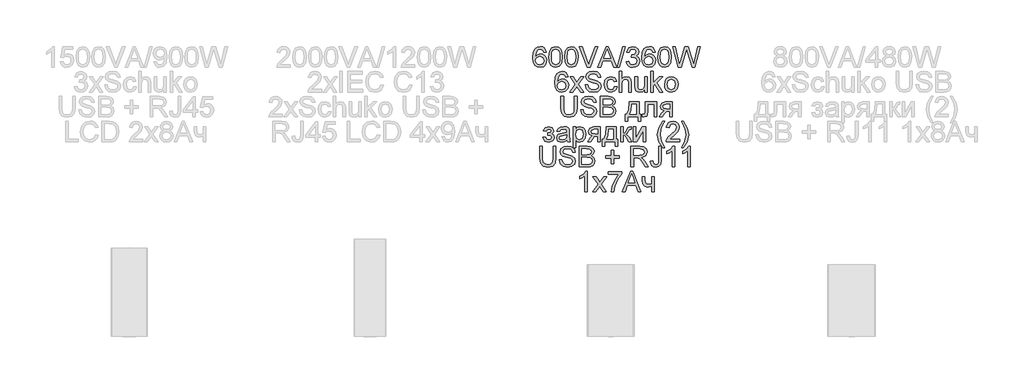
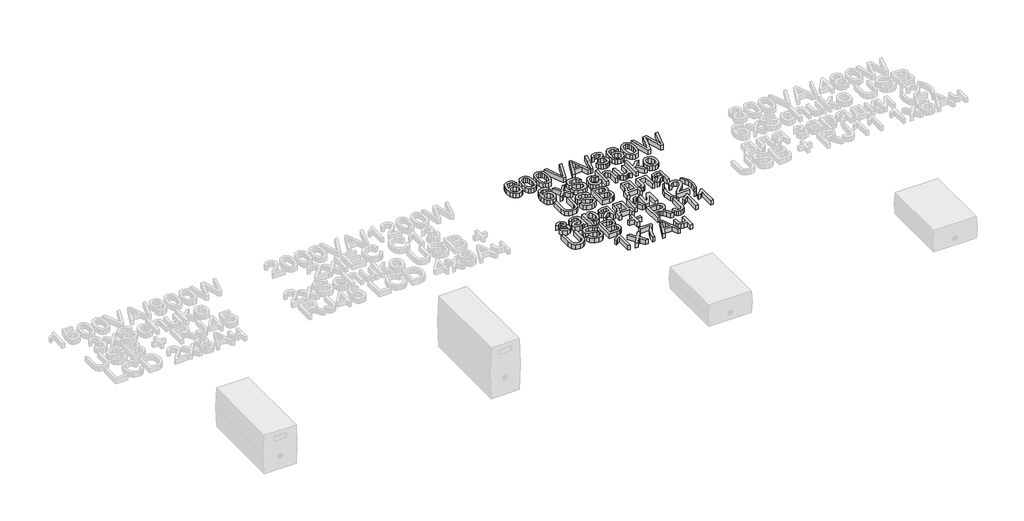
# One storey, part 50 of 74: 1 proxy.
"""IFC4 building model written with IfcOpenShell, lengths in millimetres."""

from ifc_helpers import new_model, si_unit, origin, origin_with_axes, place, context, project, spatial, polyline, outline, extrude, element, save

model = new_model("IFC4")

# Units and contexts
model_context = context("Model", 3, world=origin())
ifc_project = project(units=[si_unit("LENGTHUNIT", "METRE", prefix="MILLI")], contexts=[model_context])

# Site, building, storey
site = spatial("IfcSite", under=ifc_project)
building = spatial("IfcBuilding", under=site)
storey = spatial("IfcBuildingStorey", under=building, Name="Этаж 01", Elevation=0.0)

# Proxy
placement = place(None, origin())
element("IfcBuildingElementProxy", 1, Name="80 мм Arial", ObjectType="80 мм Arial", at=placement, inside=storey, context=model_context, shape_type="SweptSolid", body=[
    extrude(outline(polyline([(9576.3389235, -10967.6152437), (9566.2932925, -10968.8709476), (9562.4869401, -10960.4930483), (9552.4216887, -10956.3139089), (9543.3570764, -10958.7468351), (9536.499756, -10967.8801188), (9533.6449917, -10985.7837092), (9542.5035901, -10977.7687868), (9553.4811889, -10975.149467), (9562.7616253, -10976.9398261), (9570.5509135, -10982.3109032), (9575.8336989, -10990.5171242), (9577.5946274, -11000.812915), (9574.2787843, -11014.6747086), (9565.1553109, -11024.4848951), (9551.9900405, -11027.8890298), (9540.5930563, -11025.6326869), (9531.5161812, -11018.8636582), (9525.5785658, -11006.914851), (9523.5993607, -10989.1191726), (9525.7968425, -10969.1112972), (9532.3892878, -10955.4309921), (9541.390134, -10948.5589564), (9553.0495407, -10946.2682778), (9561.8639933, -10947.6858498), (9568.9224225, -10951.9385657), (9576.3389235, -10967.6152437)]), holes=[polyline([(9533.6449917, -11000.655952), (9535.9700059, -11009.3575875), (9542.1504234, -11015.6753476), (9551.2052256, -11017.8433988), (9563.0461208, -11013.3503334), (9567.5489964, -11001.1464613), (9563.1049819, -10989.4625292), (9550.7931978, -10985.195098), (9538.6383766, -10989.4625292), (9533.6449917, -11000.655952)])]), origin_with_axes(), (0.0, 0.0, 1.0), 20.0),
    extrude(outline(polyline([(9586.3845545, -10987.0982742), (9589.3374207, -10963.9756645), (9598.1077274, -10950.643621), (9612.7543359, -10946.2682778), (9624.487319, -10948.8581671), (9632.5905331, -10956.323719), (9637.2994227, -10968.2136651), (9639.1241174, -10987.0982742), (9636.2006818, -11010.122782), (9627.4598056, -11023.4842561), (9612.7543359, -11027.8890298), (9602.3162975, -11025.9760435), (9594.3896667, -11020.2370843), (9588.3858326, -11006.6450709), (9586.3845545, -10987.0982742)]), holes=[polyline([(9596.4301855, -10987.0786538), (9597.6074079, -11002.8804118), (9601.1390751, -11012.0259582), (9612.7543359, -11017.8433988), (9624.3695968, -11012.0063378), (9627.901264, -11002.8558863), (9629.0784863, -10987.0786538), (9627.9405047, -10971.6325151), (9624.5265598, -10962.4158449), (9619.27811, -10957.8393929), (9612.6366137, -10956.3139089), (9601.2960381, -10961.6898911), (9597.6466487, -10971.4804572), (9596.4301855, -10987.0786538)])]), origin_with_axes(), (0.0, 0.0, 1.0), 20.0),
    extrude(outline(polyline([(9647.9140445, -10987.0982742), (9650.8669106, -10963.9756645), (9659.6372174, -10950.643621), (9674.2838259, -10946.2682778), (9686.016809, -10948.8581671), (9694.1200231, -10956.323719), (9698.8289126, -10968.2136651), (9700.6536073, -10987.0982742), (9697.7301717, -11010.122782), (9688.9892955, -11023.4842561), (9674.2838259, -11027.8890298), (9663.8457874, -11025.9760435), (9655.9191567, -11020.2370843), (9649.9153225, -11006.6450709), (9647.9140445, -10987.0982742)]), holes=[polyline([(9657.9596755, -10987.0786538), (9659.1368979, -11002.8804118), (9662.668565, -11012.0259582), (9674.2838259, -11017.8433988), (9685.8990868, -11012.0063378), (9689.4307539, -11002.8558863), (9690.6079763, -10987.0786538), (9689.4699947, -10971.6325151), (9686.0560498, -10962.4158449), (9680.8076, -10957.8393929), (9674.1661037, -10956.3139089), (9662.825528, -10961.6898911), (9659.1761386, -10971.4804572), (9657.9596755, -10987.0786538)])]), origin_with_axes(), (0.0, 0.0, 1.0), 20.0),
    extrude(outline(polyline([(9736.9512975, -11026.633326), (9704.9700894, -10946.2682778), (9715.7220538, -10946.2682778), (9737.1278809, -11004.1679988), (9741.4639833, -11017.2155469), (9745.7412247, -11004.1679988), (9767.2059128, -10946.2682778), (9777.9578772, -10946.2682778), (9747.3304749, -11026.633326), (9736.9512975, -11026.633326)])), origin_with_axes(), (0.0, 0.0, 1.0), 20.0),
    extrude(outline(polyline([(9777.9382569, -11026.633326), (9810.0175668, -10946.2682778), (9818.5720495, -10946.2682778), (9850.6513595, -11026.633326), (9840.0367377, -11026.633326), (9830.8347827, -11001.5192484), (9797.7352133, -11001.5192484), (9788.5528787, -11026.633326), (9777.9382569, -11026.633326)]), holes=[polyline([(9801.4238434, -10991.4736174), (9827.1657729, -10991.4736174), (9819.9258553, -10971.7159017), (9814.2948082, -10956.3139089), (9809.291613, -10969.9893089), (9801.4238434, -10991.4736174)])]), origin_with_axes(), (0.0, 0.0, 1.0), 20.0),
    extrude(outline(polyline([(9852.5937764, -11026.633326), (9875.1964462, -10946.2682778), (9884.2610586, -10946.2682778), (9861.6583888, -11026.633326), (9852.5937764, -11026.633326)])), origin_with_axes(), (0.0, 0.0, 1.0), 20.0),
    extrude(outline(polyline([(9889.0091889, -11005.2863601), (9899.0548199, -11004.0306562), (9904.5975753, -11014.6060373), (9914.9669424, -11017.8433988), (9927.1708145, -11013.3895741), (9931.7031207, -11002.3629245), (9927.2100552, -10991.9739369), (9915.7909981, -10987.8634688), (9908.7472842, -10988.9622097), (9909.8656454, -10978.9165786), (9911.474516, -10979.0343009), (9922.8739528, -10976.150106), (9927.936009, -10967.2816974), (9924.2669993, -10959.423738), (9914.8099794, -10956.3139089), (9905.2352374, -10959.4531685), (9900.3105237, -10968.8709476), (9890.2648927, -10967.6152437), (9898.485829, -10951.8600842), (9914.4568127, -10946.2682778), (9926.5723931, -10949.0249403), (9935.0483943, -10956.5591635), (9937.98164, -10966.6930862), (9935.1955471, -10975.9539023), (9926.9549904, -10982.6052088), (9937.9031586, -10989.4723394), (9941.7487517, -11002.5395078), (9939.8259551, -11012.330074), (9934.0575654, -11020.5117696), (9925.3510249, -11026.0447148), (9914.6137757, -11027.8890298), (9904.901691, -11026.3144949), (9896.9946807, -11021.5908901), (9891.4960711, -11014.3656877), (9889.0091889, -11005.2863601)])), origin_with_axes(), (0.0, 0.0, 1.0), 20.0),
    extrude(outline(polyline([(10002.0225378, -10967.6152437), (9991.9769068, -10968.8709476), (9988.1705544, -10960.4930483), (9978.105303, -10956.3139089), (9969.0406906, -10958.7468351), (9962.1833702, -10967.8801188), (9959.328606, -10985.7837092), (9968.1872044, -10977.7687868), (9979.1648031, -10975.149467), (9988.4452396, -10976.9398261), (9996.2345277, -10982.3109032), (10001.5173132, -10990.5171242), (10003.2782416, -11000.812915), (9999.9623986, -11014.6747086), (9990.8389251, -11024.4848951), (9977.6736548, -11027.8890298), (9966.2766706, -11025.6326869), (9957.1997955, -11018.8636582), (9951.2621801, -11006.914851), (9949.2829749, -10989.1191726), (9951.4804567, -10969.1112972), (9958.0729021, -10955.4309921), (9967.0737482, -10948.5589564), (9978.7331549, -10946.2682778), (9987.5476075, -10947.6858498), (9994.6060367, -10951.9385657), (10002.0225378, -10967.6152437)]), holes=[polyline([(9959.328606, -11000.655952), (9961.6536202, -11009.3575875), (9967.8340377, -11015.6753476), (9976.8888399, -11017.8433988), (9988.729735, -11013.3503334), (9993.2326106, -11001.1464613), (9988.7885961, -10989.4625292), (9976.476812, -10985.195098), (9964.3219909, -10989.4625292), (9959.328606, -11000.655952)])]), origin_with_axes(), (0.0, 0.0, 1.0), 20.0),
    extrude(outline(polyline([(10012.0681688, -10987.0982742), (10015.0210349, -10963.9756645), (10023.7913417, -10950.643621), (10038.4379502, -10946.2682778), (10050.1709333, -10948.8581671), (10058.2741474, -10956.323719), (10062.9830369, -10968.2136651), (10064.8077316, -10987.0982742), (10061.884296, -11010.122782), (10053.1434198, -11023.4842561), (10038.4379502, -11027.8890298), (10027.9999117, -11025.9760435), (10020.073281, -11020.2370843), (10014.0694468, -11006.6450709), (10012.0681688, -10987.0982742)]), holes=[polyline([(10022.1137998, -10987.0786538), (10023.2910222, -11002.8804118), (10026.8226893, -11012.0259582), (10038.4379502, -11017.8433988), (10050.0532111, -11012.0063378), (10053.5848782, -11002.8558863), (10054.7621006, -10987.0786538), (10053.624119, -10971.6325151), (10050.210174, -10962.4158449), (10044.9617242, -10957.8393929), (10038.320228, -10956.3139089), (10026.9796523, -10961.6898911), (10023.3302629, -10971.4804572), (10022.1137998, -10987.0786538)])]), origin_with_axes(), (0.0, 0.0, 1.0), 20.0),
    extrude(outline(polyline([(10091.7465038, -11026.633326), (10069.8305471, -10946.2682778), (10080.1901041, -10946.2682778), (10092.9041059, -10999.0863222), (10096.8281805, -11015.3908522), (10101.0269403, -11000.969878), (10116.9586833, -10946.2682778), (10131.8897872, -10946.2682778), (10143.4658073, -10985.9210518), (10152.0791511, -11015.3908522), (10155.8855034, -10999.5572111), (10168.7172274, -10946.2682778), (10179.0767844, -10946.2682778), (10157.1412073, -11026.633326), (10146.4088632, -11026.633326), (10127.1416569, -10964.632947), (10124.4536658, -10955.9803625), (10121.4321283, -10966.3987806), (10103.8718944, -11026.633326), (10091.7465038, -11026.633326)])), origin_with_axes(), (0.0, 0.0, 1.0), 20.0),
    extrude(outline(polyline([(9661.7267871, -11065.195098), (9651.6811561, -11066.4508019), (9647.8748037, -11058.0729026), (9637.8095524, -11053.8937631), (9628.74494, -11056.3266894), (9621.8876196, -11065.4599731), (9619.0328553, -11083.3635635), (9627.8914538, -11075.3486411), (9638.8690525, -11072.7293213), (9648.149489, -11074.5196803), (9655.9387771, -11079.8907575), (9661.2215625, -11088.0969785), (9662.982491, -11098.3927693), (9659.666648, -11112.2545628), (9650.5431745, -11122.0647494), (9637.3779042, -11125.4688841), (9625.9809199, -11123.2125412), (9616.9040448, -11116.4435125), (9610.9664294, -11104.4947053), (9608.9872243, -11086.6990269), (9611.1847061, -11066.6911515), (9617.7771514, -11053.0108463), (9626.7779976, -11046.1388107), (9638.4374043, -11043.8481321), (9647.2518569, -11045.2657041), (9654.3102861, -11049.5184199), (9661.7267871, -11065.195098)]), holes=[polyline([(9619.0328553, -11098.2358063), (9621.3578695, -11106.9374417), (9627.5382871, -11113.2552019), (9636.5930892, -11115.4232531), (9648.4339844, -11110.9301877), (9652.93686, -11098.7263156), (9648.4928455, -11087.0423834), (9636.1810614, -11082.7749523), (9624.0262403, -11087.0423834), (9619.0328553, -11098.2358063)])]), origin_with_axes(), (0.0, 0.0, 1.0), 20.0),
    extrude(outline(polyline([(9668.0053065, -11124.2131802), (9689.4699947, -11094.5471761), (9669.2610104, -11065.195098), (9681.3471602, -11065.195098), (9691.0984856, -11079.3217666), (9695.6504122, -11085.9926935), (9699.5941072, -11080.5382298), (9710.6992383, -11065.195098), (9722.7853882, -11065.195098), (9701.5561445, -11094.5471761), (9722.0005732, -11124.2131802), (9709.9144234, -11124.2131802), (9697.6124495, -11106.3782611), (9695.3561066, -11103.1212792), (9680.0914563, -11124.2131802), (9668.0053065, -11124.2131802)])), origin_with_axes(), (0.0, 0.0, 1.0), 20.0),
    extrude(outline(polyline([(9728.2790926, -11096.5876949), (9738.3247236, -11096.5876949), (9741.5620852, -11106.6431361), (9749.4690955, -11113.000137), (9761.5160046, -11115.4232531), (9772.0129042, -11113.5887482), (9778.7917431, -11108.5463123), (9781.0186554, -11101.8067142), (9779.3509237, -11095.538005), (9772.5230339, -11090.9762682), (9757.8960458, -11087.1404853), (9742.1506964, -11082.1863411), (9733.6060239, -11074.710979), (9730.7905004, -11064.7242091), (9734.2731166, -11053.3542029), (9744.44628, -11045.3294703), (9759.3381432, -11042.5924282), (9775.2306454, -11045.4570027), (9785.8256468, -11053.8741428), (9789.8085826, -11066.4508019), (9779.7629516, -11066.4508019), (9774.0730434, -11056.1304857), (9759.7305507, -11052.6380593), (9745.3488172, -11056.0912449), (9740.8361314, -11064.4299035), (9744.0342522, -11071.3951359), (9760.4368841, -11077.0065626), (9778.2129421, -11082.0489985), (9787.934837, -11090.1914533), (9791.0642865, -11101.5516493), (9787.463948, -11113.5691278), (9777.104391, -11122.3394346), (9761.9084121, -11125.4688841), (9743.9655809, -11122.0941799), (9732.6151951, -11111.9308267), (9728.2790926, -11096.5876949)])), origin_with_axes(), (0.0, 0.0, 1.0), 20.0),
    extrude(outline(polyline([(9842.5481454, -11102.8662143), (9852.5937764, -11104.1219182), (9849.7929682, -11113.0565456), (9844.5298031, -11119.8084065), (9828.5980602, -11125.4688841), (9817.9123145, -11123.4945841), (9809.5564881, -11117.571684), (9804.163338, -11107.9601537), (9802.3656213, -11094.9199632), (9805.4362097, -11078.2328359), (9814.7951277, -11067.510302), (9828.4607175, -11063.9393941), (9843.735178, -11068.8444874), (9851.3380725, -11082.7749523), (9841.2924415, -11084.0306562), (9836.6326029, -11076.5062431), (9828.539199, -11073.9850252), (9816.8945076, -11078.9489796), (9812.4112524, -11094.645278), (9816.7964057, -11110.4887293), (9828.2645138, -11115.4232531), (9837.7313438, -11112.3428545), (9842.5481454, -11102.8662143)])), origin_with_axes(), (0.0, 0.0, 1.0), 20.0),
    extrude(outline(polyline([(9861.3837036, -11124.2131802), (9861.3837036, -11043.8481321), (9871.4293346, -11043.8481321), (9871.4293346, -11073.396414), (9879.2627685, -11066.3036491), (9888.911087, -11063.9393941), (9900.1928015, -11066.5194732), (9907.0403117, -11073.6514788), (9909.1004509, -11086.8559899), (9909.1004509, -11124.2131802), (9899.0548199, -11124.2131802), (9899.0548199, -11087.8958697), (9895.8566991, -11077.3008682), (9886.7920867, -11073.9850252), (9878.5613402, -11076.2217477), (9873.0676357, -11082.284443), (9871.4293346, -11092.8598241), (9871.4293346, -11124.2131802), (9861.3837036, -11124.2131802)])), origin_with_axes(), (0.0, 0.0, 1.0), 20.0),
    extrude(outline(polyline([(9960.5843098, -11124.2131802), (9960.5843098, -11114.0694474), (9952.7165402, -11122.6190249), (9942.4550851, -11125.4688841), (9933.0078755, -11123.4676061), (9926.4939116, -11118.4447906), (9923.5018047, -11111.0479099), (9922.9131935, -11101.7086123), (9922.9131935, -11065.195098), (9932.9588245, -11065.195098), (9932.9588245, -11096.9801024), (9933.5670561, -11107.2219372), (9937.5401817, -11113.2355815), (9945.025354, -11115.4232531), (9953.4130635, -11113.1865306), (9958.9558189, -11107.0944047), (9960.5843098, -11095.9009819), (9960.5843098, -11065.195098), (9970.6299408, -11065.195098), (9970.6299408, -11124.2131802), (9960.5843098, -11124.2131802)])), origin_with_axes(), (0.0, 0.0, 1.0), 20.0),
    extrude(outline(polyline([(9984.4426835, -11124.2131802), (9984.4426835, -11043.8481321), (9994.4883145, -11043.8481321), (9994.4883145, -11087.0325733), (10017.0125028, -11065.195098), (10030.9037269, -11065.195098), (10008.1048534, -11087.3072585), (10032.1594308, -11124.2131802), (10020.4264477, -11124.2131802), (10000.9041765, -11094.2921113), (9994.4883145, -11100.5117696), (9994.4883145, -11124.2131802), (9984.4426835, -11124.2131802)])), origin_with_axes(), (0.0, 0.0, 1.0), 20.0),
    extrude(outline(polyline([(10038.4379502, -11094.7041391), (10040.6109065, -11080.4744636), (10047.1297755, -11070.4729784), (10055.1839386, -11065.5727902), (10064.827352, -11063.9393941), (10075.3806602, -11065.9284095), (10083.8100629, -11071.8954554), (10089.3356505, -11081.3696431), (10091.177513, -11093.8800835), (10087.9205311, -11111.7542433), (10078.4340807, -11121.8685457), (10064.827352, -11125.4688841), (10054.1465114, -11123.4872264), (10045.7269188, -11117.5422534), (10040.2601923, -11107.8694095), (10038.4379502, -11094.7041391)]), holes=[polyline([(10048.4835812, -11094.6845188), (10053.1336096, -11110.2532848), (10064.827352, -11115.4232531), (10076.4818536, -11110.2238542), (10081.131882, -11094.3705928), (10076.452423, -11079.1549935), (10064.827352, -11073.9850252), (10053.1336096, -11079.1353731), (10048.4835812, -11094.6845188)])]), origin_with_axes(), (0.0, 0.0, 1.0), 20.0),
    extrude(outline(polyline([(9686.2130127, -11141.4279864), (9696.2586438, -11141.4279864), (9696.2586438, -11187.790928), (9693.5314119, -11207.0090834), (9683.701605, -11218.5851035), (9665.0622506, -11223.0487384), (9646.7073915, -11219.1639045), (9636.5244179, -11207.9116206), (9633.4734499, -11187.790928), (9633.4734499, -11141.4279864), (9643.5190809, -11141.4279864), (9643.5190809, -11187.4377613), (9645.5007386, -11202.7514624), (9652.3090081, -11210.3347366), (9664.1204727, -11213.0031074), (9674.3377819, -11211.6836373), (9681.1313361, -11207.725227), (9684.9425936, -11200.0144204), (9686.2130127, -11187.4377613), (9686.2130127, -11141.4279864)])), origin_with_axes(), (0.0, 0.0, 1.0), 20.0),
    extrude(outline(polyline([(9710.0713864, -11194.1675492), (9720.1170174, -11194.1675492), (9723.354379, -11204.2229904), (9731.2613893, -11210.5799913), (9743.3082984, -11213.0031074), (9753.805198, -11211.1686025), (9760.5840369, -11206.1261666), (9762.8109492, -11199.3865685), (9761.1432175, -11193.1178593), (9754.3153277, -11188.5561225), (9739.6883396, -11184.7203396), (9723.9429902, -11179.7661954), (9715.3983177, -11172.2908332), (9712.5827942, -11162.3040633), (9716.0654104, -11150.9340571), (9726.2385738, -11142.9093246), (9741.130437, -11140.1722825), (9757.0229392, -11143.036857), (9767.6179406, -11151.453997), (9771.6008764, -11164.0306562), (9761.5552453, -11164.0306562), (9755.8653372, -11153.7103399), (9741.5228444, -11150.2179135), (9727.141111, -11153.6710992), (9722.6284252, -11162.0097577), (9725.826546, -11168.9749902), (9742.2291779, -11174.5864169), (9760.0052359, -11179.6288528), (9769.7271307, -11187.7713076), (9772.8565802, -11199.1315036), (9769.2562418, -11211.1489821), (9758.8966848, -11219.9192889), (9743.7007059, -11223.0487384), (9725.7578747, -11219.6740342), (9714.4074888, -11209.510681), (9710.0713864, -11194.1675492)])), origin_with_axes(), (0.0, 0.0, 1.0), 20.0),
    extrude(outline(polyline([(9787.9250268, -11221.7930345), (9787.9250268, -11141.4279864), (9818.5916699, -11141.4279864), (9833.6110655, -11143.7922413), (9842.4794741, -11151.0615896), (9845.6874051, -11161.3426651), (9842.9896038, -11170.7310136), (9834.8373388, -11177.8433988), (9844.735817, -11185.3383813), (9848.1988129, -11197.836559), (9845.8345579, -11208.6375744), (9839.9778765, -11216.3287606), (9831.2370003, -11220.4097982), (9818.3562254, -11221.7930345), (9787.9250268, -11221.7930345)]), holes=[polyline([(9797.9706578, -11174.0762872), (9816.3157066, -11174.0762872), (9827.0284303, -11173.2129908), (9833.4737229, -11169.4949301), (9835.6417741, -11162.9515357), (9833.6208757, -11156.3983311), (9827.8328656, -11152.5233074), (9814.9226601, -11151.4736174), (9797.9706578, -11151.4736174), (9797.9706578, -11174.0762872)]), polyline([(9797.9706578, -11211.7474035), (9818.5720495, -11211.7474035), (9826.0277913, -11211.354996), (9832.3357412, -11209.1673244), (9836.5148807, -11204.7036896), (9838.1531818, -11197.9346609), (9836.2303853, -11190.1257524), (9830.0009168, -11185.4659138), (9817.5910309, -11184.1219182), (9797.9706578, -11184.1219182), (9797.9706578, -11211.7474035)])]), origin_with_axes(), (0.0, 0.0, 1.0), 20.0),
    extrude(outline(polyline([(9900.9383757, -11162.7749523), (9938.609492, -11162.7749523), (9938.609492, -11211.7474035), (9946.1437152, -11211.7474035), (9946.1437152, -11238.1171849), (9936.0980842, -11238.1171849), (9936.0980842, -11221.7930345), (9894.6598563, -11221.7930345), (9894.6598563, -11238.1171849), (9884.6142253, -11238.1171849), (9884.6142253, -11211.7474035), (9890.8927447, -11211.7474035), (9898.6526022, -11192.5881092), (9900.9383757, -11162.7749523)]), holes=[polyline([(9909.7283028, -11172.8205833), (9907.3738581, -11195.7077485), (9902.1940796, -11211.7474035), (9928.563861, -11211.7474035), (9928.563861, -11172.8205833), (9909.7283028, -11172.8205833)])]), origin_with_axes(), (0.0, 0.0, 1.0), 20.0),
    extrude(outline(polyline([(9962.4678656, -11162.7749523), (10007.6732052, -11162.7749523), (10007.6732052, -11221.7341734), (9997.6275742, -11221.7341734), (9997.6275742, -11172.8205833), (9972.5134967, -11172.8205833), (9972.5134967, -11200.9758187), (9971.8365938, -11213.9645057), (9968.1185331, -11219.4483999), (9959.328606, -11221.7930345), (9951.1665308, -11221.2829048), (9951.1665308, -11211.7474035), (9955.6595962, -11211.7474035), (9960.2017126, -11211.1293617), (9962.0165971, -11209.1673244), (9962.4678656, -11200.4068279), (9962.4678656, -11162.7749523)])), origin_with_axes(), (0.0, 0.0, 1.0), 20.0),
    extrude(outline(polyline([(10067.9469913, -11162.7749523), (10067.9469913, -11221.7930345), (10057.9013603, -11221.7930345), (10057.9013603, -11199.1903647), (10052.4272762, -11199.1903647), (10044.9715344, -11200.465689), (10037.9670612, -11209.039792), (10029.961949, -11221.7930345), (10018.3466882, -11221.7930345), (10028.4315599, -11205.6650878), (10036.9860426, -11197.3068089), (10025.2923002, -11191.2048729), (10021.4859479, -11179.8250565), (10026.6853467, -11167.5034622), (10041.7341729, -11162.7749523), (10067.9469913, -11162.7749523)]), holes=[polyline([(10057.9013603, -11172.8205833), (10044.6576085, -11172.8205833), (10033.9350746, -11175.1455975), (10031.5315789, -11180.5902511), (10035.0730562, -11187.0747844), (10047.6202848, -11189.1447337), (10057.9013603, -11189.1447337), (10057.9013603, -11172.8205833)])]), origin_with_axes(), (0.0, 0.0, 1.0), 20.0),
    extrude(outline(polyline([(9581.361739, -11293.0031074), (9581.361739, -11282.9574764), (9589.2883697, -11282.5650689), (9593.2909258, -11280.4754992), (9595.1744817, -11276.1099662), (9592.6532637, -11271.0380997), (9586.14911, -11269.1447337), (9579.4291323, -11271.0282895), (9575.0832196, -11276.678957), (9563.7818847, -11275.4232531), (9571.3357284, -11263.1801403), (9585.1288506, -11259.0991027), (9599.8833712, -11264.0728673), (9605.2201127, -11275.9530032), (9603.3218416, -11282.1922818), (9597.6270283, -11287.0188936), (9604.2685246, -11293.2777926), (9606.4758166, -11302.2835438), (9605.0754124, -11309.6779719), (9600.8742, -11315.5371059), (9585.2073321, -11320.6285927), (9569.7562883, -11315.9197031), (9562.5261809, -11301.7930345), (9573.8275158, -11300.5373306), (9578.3598219, -11307.9538317), (9586.1687304, -11310.5829617), (9593.50675, -11308.0617437), (9596.4301855, -11301.6164512), (9594.615301, -11296.3385708), (9590.7500875, -11293.5132371), (9583.3237763, -11292.9442463), (9581.361739, -11293.0031074)])), origin_with_axes(), (0.0, 0.0, 1.0), 20.0),
    extrude(outline(polyline([(9656.7039716, -11311.8386655), (9646.9624564, -11318.646935), (9636.2006818, -11320.6285927), (9621.6129344, -11315.860842), (9616.5214476, -11303.6765903), (9618.4442441, -11295.7303392), (9623.4964902, -11289.9619495), (9630.5303939, -11286.6657269), (9639.2222192, -11285.1549581), (9656.6451105, -11281.7017725), (9656.7039716, -11279.46505), (9653.937499, -11272.0485489), (9642.8323679, -11269.1447337), (9632.6690146, -11271.0773405), (9627.8227825, -11277.9346609), (9617.7771514, -11276.678957), (9622.1230641, -11266.8687704), (9630.8737505, -11261.1200011), (9644.1273125, -11259.0991027), (9656.301754, -11260.8845566), (9663.1786947, -11265.3678119), (9666.2590933, -11272.1858915), (9666.7496026, -11280.9758187), (9666.7496026, -11293.4739963), (9667.2597323, -11310.9263182), (9669.2610104, -11319.3728888), (9659.2153794, -11319.3728888), (9656.7039716, -11311.8386655)]), holes=[polyline([(9656.7039716, -11291.7474035), (9640.4975435, -11294.8278021), (9631.8547691, -11296.456293), (9627.9405047, -11299.1050434), (9626.5670786, -11302.9702569), (9629.5591855, -11308.4051002), (9638.3393024, -11310.5829617), (9648.5026557, -11308.1794659), (9655.0558603, -11302.3620253), (9656.6451105, -11294.5923576), (9656.7039716, -11291.7474035)])]), origin_with_axes(), (0.0, 0.0, 1.0), 20.0),
    extrude(outline(polyline([(9680.5623453, -11341.9755586), (9680.5623453, -11260.3548066), (9690.6079763, -11260.3548066), (9690.6079763, -11270.2042339), (9697.5535884, -11261.8753855), (9706.9321267, -11259.0991027), (9719.6657488, -11262.9839366), (9727.984787, -11273.9321047), (9730.7905004, -11289.4125791), (9727.6218101, -11305.6876786), (9718.4198551, -11316.7731894), (9705.7156636, -11320.6285927), (9696.9747874, -11318.0485136), (9690.6079763, -11311.5247396), (9690.6079763, -11341.9755586), (9680.5623453, -11341.9755586)]), holes=[polyline([(9690.6079763, -11290.3347366), (9694.9538889, -11305.6386276), (9705.4998395, -11310.5829617), (9716.2616141, -11305.4620443), (9720.7448694, -11289.5891625), (9716.3695262, -11274.2460307), (9705.9118673, -11269.1447337), (9695.2481945, -11274.5697669), (9690.6079763, -11290.3347366)])]), origin_with_axes(), (0.0, 0.0, 1.0), 20.0),
    extrude(outline(polyline([(9787.2971748, -11260.3548066), (9787.2971748, -11319.3728888), (9777.2515438, -11319.3728888), (9777.2515438, -11296.770219), (9771.7774597, -11296.770219), (9764.321718, -11298.0455433), (9757.3172448, -11306.6196463), (9749.3121326, -11319.3728888), (9737.6968717, -11319.3728888), (9747.7817435, -11303.2449421), (9756.3362261, -11294.8866632), (9744.6424838, -11288.7847272), (9740.8361314, -11277.4049108), (9746.0355302, -11265.0833165), (9761.0843564, -11260.3548066), (9787.2971748, -11260.3548066)]), holes=[polyline([(9777.2515438, -11270.4004376), (9764.007792, -11270.4004376), (9753.2852581, -11272.7254518), (9750.8817624, -11278.1701053), (9754.4232397, -11284.6546386), (9766.9704683, -11286.724588), (9777.2515438, -11286.724588), (9777.2515438, -11270.4004376)])]), origin_with_axes(), (0.0, 0.0, 1.0), 20.0),
    extrude(outline(polyline([(9811.1555485, -11260.3548066), (9848.8266648, -11260.3548066), (9848.8266648, -11309.3272578), (9856.3608881, -11309.3272578), (9856.3608881, -11335.6970392), (9846.315257, -11335.6970392), (9846.315257, -11319.3728888), (9804.8770291, -11319.3728888), (9804.8770291, -11335.6970392), (9794.8313981, -11335.6970392), (9794.8313981, -11309.3272578), (9801.1099175, -11309.3272578), (9808.869775, -11290.1679635), (9811.1555485, -11260.3548066)]), holes=[polyline([(9819.9454756, -11270.4004376), (9817.5910309, -11293.2876028), (9812.4112524, -11309.3272578), (9838.7810338, -11309.3272578), (9838.7810338, -11270.4004376), (9819.9454756, -11270.4004376)])]), origin_with_axes(), (0.0, 0.0, 1.0), 20.0),
    extrude(outline(polyline([(9867.6622229, -11260.3548066), (9877.707854, -11260.3548066), (9877.707854, -11285.4688841), (9884.4376419, -11283.6638098), (9889.9509668, -11273.1472898), (9894.5323239, -11264.0728673), (9898.5741207, -11261.1200011), (9905.9219504, -11260.3548066), (9907.844747, -11260.3548066), (9907.844747, -11270.4592987), (9905.1371355, -11270.4004376), (9900.2320423, -11271.4599377), (9896.7788566, -11278.0720035), (9892.7272495, -11285.2236295), (9887.0471515, -11288.725866), (9893.384532, -11292.6352254), (9899.6041903, -11300.870877), (9910.3561548, -11319.3728888), (9898.9370976, -11319.3728888), (9888.4009573, -11301.2632844), (9883.1034566, -11293.6015288), (9877.707854, -11291.7474035), (9877.707854, -11319.3728888), (9867.6622229, -11319.3728888), (9867.6622229, -11260.3548066)])), origin_with_axes(), (0.0, 0.0, 1.0), 20.0),
    extrude(outline(polyline([(9916.6346741, -11260.3548066), (9926.6803052, -11260.3548066), (9926.6803052, -11305.3639424), (9951.3627345, -11260.3548066), (9964.3514215, -11260.3548066), (9964.3514215, -11319.3728888), (9954.3057904, -11319.3728888), (9954.3057904, -11274.6384382), (9929.7803241, -11319.3728888), (9916.6346741, -11319.3728888), (9916.6346741, -11260.3548066)])), origin_with_axes(), (0.0, 0.0, 1.0), 20.0),
    extrude(outline(polyline([(10030.9037269, -11341.9755586), (10016.6397157, -11318.4114905), (10010.8124649, -11290.4328385), (10015.1681877, -11266.005474), (10030.9037269, -11239.0078407), (10038.4379502, -11239.0078407), (10029.0397915, -11254.9199632), (10023.3891241, -11270.3415765), (10020.8580959, -11290.4916996), (10025.2530595, -11316.2434393), (10038.4379502, -11341.9755586), (10030.9037269, -11341.9755586)])), origin_with_axes(), (0.0, 0.0, 1.0), 20.0),
    extrude(outline(polyline([(10097.4560324, -11309.3272578), (10097.4560324, -11319.3728888), (10044.7164696, -11319.3728888), (10045.7955901, -11312.4468971), (10051.8975261, -11301.7832243), (10064.4741853, -11290.1385329), (10081.8185951, -11273.4023547), (10086.1546975, -11262.0225383), (10082.0638497, -11252.8107731), (10071.3805566, -11249.0534717), (10060.2459949, -11252.7224814), (10056.0178045, -11262.8662143), (10045.9721735, -11261.6105105), (10048.4075523, -11251.8935207), (10053.6731699, -11244.7958507), (10061.4943411, -11240.4548432), (10071.5963807, -11239.0078407), (10081.7719967, -11240.6167113), (10089.5784526, -11245.443323), (10094.5448596, -11252.6538101), (10096.2003285, -11261.4143067), (10094.4148746, -11270.9399979), (10088.4797117, -11280.7894251), (10074.0881681, -11294.5531168), (10062.5317683, -11304.2161506), (10057.9994622, -11309.3272578), (10097.4560324, -11309.3272578)])), origin_with_axes(), (0.0, 0.0, 1.0), 20.0),
    extrude(outline(polyline([(10112.5244789, -11341.9755586), (10104.9902557, -11341.9755586), (10118.1751464, -11316.2434393), (10122.5701099, -11290.4916996), (10120.0390818, -11270.5181598), (10114.4472755, -11255.0769262), (10104.9902557, -11239.0078407), (10112.5244789, -11239.0078407), (10128.2600181, -11266.005474), (10132.615741, -11290.4328385), (10126.7590596, -11318.4114905), (10112.5244789, -11341.9755586)])), origin_with_axes(), (0.0, 0.0, 1.0), 20.0),
    extrude(outline(polyline([(9603.3365569, -11336.5876949), (9613.3821879, -11336.5876949), (9613.3821879, -11382.9506365), (9610.654956, -11402.168792), (9600.8251491, -11413.7448121), (9582.1857947, -11418.2084469), (9563.8309357, -11414.3236131), (9553.647962, -11403.0713291), (9550.596994, -11382.9506365), (9550.596994, -11336.5876949), (9560.6426251, -11336.5876949), (9560.6426251, -11382.5974698), (9562.6242827, -11397.911171), (9569.4325522, -11405.4944452), (9581.2440168, -11408.1628159), (9591.4613261, -11406.8433458), (9598.2548802, -11402.8849356), (9602.0661377, -11395.174129), (9603.3365569, -11382.5974698), (9603.3365569, -11336.5876949)])), origin_with_axes(), (0.0, 0.0, 1.0), 20.0),
    extrude(outline(polyline([(9627.1949305, -11389.3272578), (9637.2405615, -11389.3272578), (9640.4779231, -11399.382699), (9648.3849334, -11405.7396999), (9660.4318425, -11408.1628159), (9670.9287421, -11406.328311), (9677.707581, -11401.2858752), (9679.9344934, -11394.546277), (9678.2667616, -11388.2775678), (9671.4388718, -11383.7158311), (9656.8118837, -11379.8800481), (9641.0665343, -11374.9259039), (9632.5218618, -11367.4505418), (9629.7063383, -11357.4637719), (9633.1889545, -11346.0937657), (9643.3621179, -11338.0690331), (9658.2539811, -11335.3319911), (9674.1464833, -11338.1965655), (9684.7414848, -11346.6137056), (9688.7244205, -11359.1903647), (9678.6787895, -11359.1903647), (9672.9888813, -11348.8700485), (9658.6463886, -11345.3776221), (9644.2646551, -11348.8308077), (9639.7519693, -11357.1694663), (9642.9500901, -11364.1346987), (9659.352722, -11369.7461254), (9677.12878, -11374.7885613), (9686.8506749, -11382.9310162), (9689.9801244, -11394.2912122), (9686.3797859, -11406.3086907), (9676.0202289, -11415.0789974), (9660.82425, -11418.2084469), (9642.8814188, -11414.8337428), (9631.531033, -11404.6703895), (9627.1949305, -11389.3272578)])), origin_with_axes(), (0.0, 0.0, 1.0), 20.0),
    extrude(outline(polyline([(9705.0485709, -11416.9527431), (9705.0485709, -11336.5876949), (9735.715214, -11336.5876949), (9750.7346096, -11338.9519499), (9759.6030182, -11346.2212981), (9762.8109492, -11356.5023736), (9760.1131479, -11365.8907221), (9751.9608829, -11373.0031074), (9761.8593611, -11380.4980899), (9765.322357, -11392.9962675), (9762.958102, -11403.7972829), (9757.1014207, -11411.4884692), (9748.3605445, -11415.5695068), (9735.4797695, -11416.9527431), (9705.0485709, -11416.9527431)]), holes=[polyline([(9715.0942019, -11369.2359957), (9733.4392507, -11369.2359957), (9744.1519744, -11368.3726993), (9750.597267, -11364.6546386), (9752.7653182, -11358.1112442), (9750.7444198, -11351.5580396), (9744.9564097, -11347.6830159), (9732.0462042, -11346.633326), (9715.0942019, -11346.633326), (9715.0942019, -11369.2359957)]), polyline([(9715.0942019, -11406.9071121), (9735.6955936, -11406.9071121), (9743.1513354, -11406.5147046), (9749.4592853, -11404.327033), (9753.6384248, -11399.8633981), (9755.276726, -11393.0943694), (9753.3539294, -11385.2854609), (9747.124461, -11380.6256223), (9734.714575, -11379.2816268), (9715.0942019, -11379.2816268), (9715.0942019, -11406.9071121)])]), origin_with_axes(), (0.0, 0.0, 1.0), 20.0),
    extrude(outline(polyline([(9829.3632547, -11404.3957043), (9829.3632547, -11383.0487384), (9808.0162888, -11383.0487384), (9808.0162888, -11373.0031074), (9829.3632547, -11373.0031074), (9829.3632547, -11351.6561415), (9839.4088857, -11351.6561415), (9839.4088857, -11373.0031074), (9860.7558516, -11373.0031074), (9860.7558516, -11383.0487384), (9839.4088857, -11383.0487384), (9839.4088857, -11404.3957043), (9829.3632547, -11404.3957043)])), origin_with_axes(), (0.0, 0.0, 1.0), 20.0),
    extrude(outline(polyline([(9907.2168951, -11416.9527431), (9907.2168951, -11336.5876949), (9941.8468535, -11336.5876949), (9957.9257493, -11338.7557462), (9966.7156764, -11346.427312), (9970.0020889, -11358.5821332), (9964.5574354, -11373.0619685), (9947.7329655, -11380.5373306), (9953.442494, -11384.8341923), (9961.5849489, -11395.174129), (9974.9856637, -11416.9527431), (9963.3115417, -11416.9527431), (9952.8538828, -11400.2950463), (9945.3000392, -11389.2683967), (9939.9927283, -11384.0591876), (9935.2151674, -11382.1462012), (9929.3879166, -11381.7930345), (9917.2625261, -11381.7930345), (9917.2625261, -11416.9527431), (9907.2168951, -11416.9527431)]), holes=[polyline([(9917.2625261, -11371.7474035), (9939.7474736, -11371.7474035), (9951.2155817, -11370.3249264), (9957.7295456, -11365.7729999), (9959.9564579, -11358.9549203), (9955.7086471, -11350.106132), (9942.2785018, -11346.633326), (9917.2625261, -11346.633326), (9917.2625261, -11371.7474035)])]), origin_with_axes(), (0.0, 0.0, 1.0), 20.0),
    extrude(outline(polyline([(9982.5591277, -11394.389314), (9992.6047587, -11393.0943694), (9996.038324, -11404.9646951), (10004.5143252, -11408.1628159), (10011.3912659, -11406.3479314), (10015.3742016, -11401.4035974), (10016.4631324, -11391.4462581), (10016.4631324, -11336.5876949), (10026.5087634, -11336.5876949), (10026.5087634, -11391.2696747), (10024.0856473, -11406.8776815), (10016.394461, -11415.3046317), (10004.0434362, -11418.2084469), (9994.7580946, -11416.7099409), (9987.9351099, -11412.214423), (9983.7952112, -11404.7611337), (9982.5591277, -11394.389314)])), origin_with_axes(), (0.0, 0.0, 1.0), 20.0),
    extrude(outline(polyline([(10077.9926223, -11416.9527431), (10067.9469913, -11416.9527431), (10067.9469913, -11354.3245122), (10058.4311104, -11361.1033511), (10047.8557293, -11366.1752175), (10047.8557293, -11356.678957), (10062.5808193, -11347.2807983), (10071.5178992, -11336.5876949), (10077.9926223, -11336.5876949), (10077.9926223, -11416.9527431)])), origin_with_axes(), (0.0, 0.0, 1.0), 20.0),
    extrude(outline(polyline([(10139.5221123, -11416.9527431), (10129.4764813, -11416.9527431), (10129.4764813, -11354.3245122), (10119.9606003, -11361.1033511), (10109.3852192, -11366.1752175), (10109.3852192, -11356.678957), (10124.1103092, -11347.2807983), (10133.0473892, -11336.5876949), (10139.5221123, -11336.5876949), (10139.5221123, -11416.9527431)])), origin_with_axes(), (0.0, 0.0, 1.0), 20.0),
    extrude(outline(polyline([(9737.0690198, -11514.5325973), (9727.0233887, -11514.5325973), (9727.0233887, -11451.9043665), (9717.5075078, -11458.6832054), (9706.9321267, -11463.7550718), (9706.9321267, -11454.2588113), (9721.6572167, -11444.8606525), (9730.5942966, -11434.1675492), (9737.0690198, -11434.1675492), (9737.0690198, -11514.5325973)])), origin_with_axes(), (0.0, 0.0, 1.0), 20.0),
    extrude(outline(polyline([(9757.1602818, -11514.5325973), (9778.6249699, -11484.8665933), (9758.4159857, -11455.5145151), (9770.5021355, -11455.5145151), (9780.2534609, -11469.6411837), (9784.8053874, -11476.3121106), (9788.7490824, -11470.8576469), (9799.8542136, -11455.5145151), (9811.9403634, -11455.5145151), (9790.7111197, -11484.8665933), (9811.1555485, -11514.5325973), (9799.0693987, -11514.5325973), (9786.7674248, -11496.6976782), (9784.5110818, -11493.4406963), (9769.2464316, -11514.5325973), (9757.1602818, -11514.5325973)])), origin_with_axes(), (0.0, 0.0, 1.0), 20.0),
    extrude(outline(polyline([(9817.4340679, -11445.4688841), (9817.4340679, -11435.4232531), (9870.1736307, -11435.4232531), (9870.1736307, -11443.5460876), (9855.2130962, -11465.1579285), (9843.7646085, -11492.6951221), (9840.0367377, -11514.5325973), (9829.9911066, -11514.5325973), (9833.9838526, -11491.8710664), (9844.9418309, -11466.2566694), (9860.1279997, -11445.4688841), (9817.4340679, -11445.4688841)])), origin_with_axes(), (0.0, 0.0, 1.0), 20.0),
    extrude(outline(polyline([(9873.3717515, -11514.5325973), (9905.4510615, -11434.1675492), (9914.0055442, -11434.1675492), (9946.0848541, -11514.5325973), (9935.4702323, -11514.5325973), (9926.2682773, -11489.4185198), (9893.1687079, -11489.4185198), (9883.9863733, -11514.5325973), (9873.3717515, -11514.5325973)]), holes=[polyline([(9896.8573381, -11479.3728888), (9922.5992676, -11479.3728888), (9915.3593499, -11459.6151731), (9909.7283028, -11444.2131802), (9904.7251077, -11457.8885803), (9896.8573381, -11479.3728888)])]), origin_with_axes(), (0.0, 0.0, 1.0), 20.0),
    extrude(outline(polyline([(9951.7943827, -11455.5145151), (9961.8400137, -11455.5145151), (9961.8400137, -11466.8354704), (9962.6542592, -11477.4500922), (9966.5685236, -11483.1988615), (9974.3381914, -11485.6514082), (9988.2097951, -11482.6102503), (9988.2097951, -11455.5145151), (9998.2554261, -11455.5145151), (9998.2554261, -11514.5325973), (9988.2097951, -11514.5325973), (9988.2097951, -11492.2438535), (9971.6502002, -11495.6970392), (9960.2605737, -11492.0967007), (9953.5602163, -11483.277343), (9951.7943827, -11471.7994248), (9951.7943827, -11455.5145151)])), origin_with_axes(), (0.0, 0.0, 1.0), 20.0),
])

save(model, "model.ifc")
